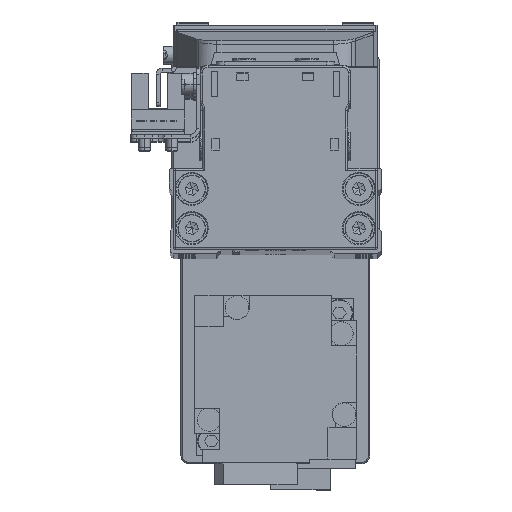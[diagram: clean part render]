
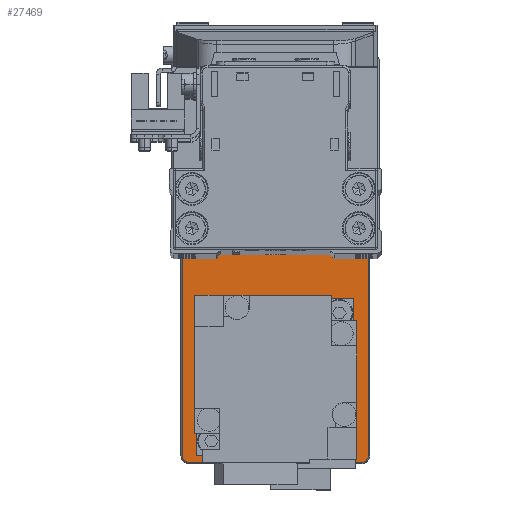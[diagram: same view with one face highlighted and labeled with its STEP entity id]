
A CAD part, top view. The second image highlights one B-rep face of the part: STEP entity #27469.
In plain terms, the highlighted planar face has unit normal (0, 0, 1).
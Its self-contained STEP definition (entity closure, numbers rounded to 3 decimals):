
#603 = EDGE_CURVE ( 'NONE', #39250, #8806, #31736, .T. ) ;
#687 = DIRECTION ( 'NONE',  ( 0., 0., 1. ) ) ;
#695 = ORIENTED_EDGE ( 'NONE', *, *, #5368, .T. ) ;
#814 = LINE ( 'NONE', #13270, #38209 ) ;
#871 = VERTEX_POINT ( 'NONE', #11887 ) ;
#1505 = AXIS2_PLACEMENT_3D ( 'NONE', #28637, #687, #13151 ) ;
#1988 = CIRCLE ( 'NONE', #24788, 12.8 ) ;
#2121 = VERTEX_POINT ( 'NONE', #19252 ) ;
#2199 = DIRECTION ( 'NONE',  ( 1., 0., 0. ) ) ;
#2229 = ORIENTED_EDGE ( 'NONE', *, *, #12778, .T. ) ;
#2339 = AXIS2_PLACEMENT_3D ( 'NONE', #35141, #7226, #19656 ) ;
#2562 = DIRECTION ( 'NONE',  ( 0., 0., 1. ) ) ;
#2985 = CIRCLE ( 'NONE', #25811, 1.7 ) ;
#3030 = ORIENTED_EDGE ( 'NONE', *, *, #22453, .T. ) ;
#3357 = EDGE_CURVE ( 'NONE', #8806, #39250, #28668, .T. ) ;
#3591 = CARTESIAN_POINT ( 'NONE',  ( -51.7, -22., 5. ) ) ;
#3753 = EDGE_LOOP ( 'NONE', ( #26445, #23646 ) ) ;
#3914 = EDGE_CURVE ( 'NONE', #35276, #16760, #1988, .T. ) ;
#4910 = CARTESIAN_POINT ( 'NONE',  ( 30., 0., 5. ) ) ;
#4936 = CARTESIAN_POINT ( 'NONE',  ( 30., 0., 5. ) ) ;
#5368 = EDGE_CURVE ( 'NONE', #871, #27805, #19675, .T. ) ;
#5821 = AXIS2_PLACEMENT_3D ( 'NONE', #8019, #20449, #32892 ) ;
#6376 = ORIENTED_EDGE ( 'NONE', *, *, #9621, .T. ) ;
#7088 = CARTESIAN_POINT ( 'NONE',  ( -28., 0., 5. ) ) ;
#7160 = CARTESIAN_POINT ( 'NONE',  ( 42.8, 0., 5. ) ) ;
#7161 = CARTESIAN_POINT ( 'NONE',  ( -50., -23.7, 5. ) ) ;
#7226 = DIRECTION ( 'NONE',  ( 0., 0., -1. ) ) ;
#8019 = CARTESIAN_POINT ( 'NONE',  ( 0., 0., 5. ) ) ;
#8806 = VERTEX_POINT ( 'NONE', #24864 ) ;
#9551 = CARTESIAN_POINT ( 'NONE',  ( -50., 23.7, 5. ) ) ;
#9607 = CARTESIAN_POINT ( 'NONE',  ( 17.2, 0., 5. ) ) ;
#9621 = EDGE_CURVE ( 'NONE', #29462, #16698, #2985, .T. ) ;
#10024 = DIRECTION ( 'NONE',  ( 1., 0., 0. ) ) ;
#10282 = VECTOR ( 'NONE', #2199, 1000. ) ;
#10787 = LINE ( 'NONE', #23213, #37926 ) ;
#11069 = FACE_BOUND ( 'NONE', #3753, .T. ) ;
#11098 = AXIS2_PLACEMENT_3D ( 'NONE', #7088, #19519, #31974 ) ;
#11649 = CIRCLE ( 'NONE', #34430, 1.7 ) ;
#11687 = ORIENTED_EDGE ( 'NONE', *, *, #18726, .T. ) ;
#11887 = CARTESIAN_POINT ( 'NONE',  ( -51.7, -22., 5. ) ) ;
#12491 = CARTESIAN_POINT ( 'NONE',  ( -51.7, 22., 5. ) ) ;
#12778 = EDGE_CURVE ( 'NONE', #27805, #2121, #17721, .T. ) ;
#13151 = DIRECTION ( 'NONE',  ( 1., 0., 0. ) ) ;
#13270 = CARTESIAN_POINT ( 'NONE',  ( 51.7, 22., 5. ) ) ;
#15027 = DIRECTION ( 'NONE',  ( 1., 0., 0. ) ) ;
#15352 = CARTESIAN_POINT ( 'NONE',  ( -50., -22., 5. ) ) ;
#15564 = VECTOR ( 'NONE', #16048, 1000. ) ;
#16048 = DIRECTION ( 'NONE',  ( 0., -1., 0. ) ) ;
#16332 = AXIS2_PLACEMENT_3D ( 'NONE', #4910, #17335, #29774 ) ;
#16698 = VERTEX_POINT ( 'NONE', #12491 ) ;
#16760 = VERTEX_POINT ( 'NONE', #9607 ) ;
#16783 = CARTESIAN_POINT ( 'NONE',  ( -38.3, 0., 5. ) ) ;
#17335 = DIRECTION ( 'NONE',  ( 0., 0., -1. ) ) ;
#17367 = DIRECTION ( 'NONE',  ( 0., 0., -1. ) ) ;
#17721 = LINE ( 'NONE', #30156, #10282 ) ;
#17918 = EDGE_CURVE ( 'NONE', #32973, #29462, #10787, .T. ) ;
#18577 = ORIENTED_EDGE ( 'NONE', *, *, #33064, .T. ) ;
#18726 = EDGE_CURVE ( 'NONE', #2121, #18912, #19105, .T. ) ;
#18912 = VERTEX_POINT ( 'NONE', #36354 ) ;
#19105 = CIRCLE ( 'NONE', #1505, 1.7 ) ;
#19252 = CARTESIAN_POINT ( 'NONE',  ( 50., -23.7, 5. ) ) ;
#19519 = DIRECTION ( 'NONE',  ( 0., 0., -1. ) ) ;
#19656 = DIRECTION ( 'NONE',  ( 1., 0., 0. ) ) ;
#19675 = CIRCLE ( 'NONE', #24879, 1.7 ) ;
#20449 = DIRECTION ( 'NONE',  ( 0., 0., 1. ) ) ;
#22453 = EDGE_CURVE ( 'NONE', #18912, #23979, #814, .T. ) ;
#22669 = ORIENTED_EDGE ( 'NONE', *, *, #26362, .T. ) ;
#23213 = CARTESIAN_POINT ( 'NONE',  ( -50., 23.7, 5. ) ) ;
#23501 = FACE_OUTER_BOUND ( 'NONE', #36948, .T. ) ;
#23646 = ORIENTED_EDGE ( 'NONE', *, *, #603, .T. ) ;
#23979 = VERTEX_POINT ( 'NONE', #39540 ) ;
#24788 = AXIS2_PLACEMENT_3D ( 'NONE', #4936, #17367, #29806 ) ;
#24864 = CARTESIAN_POINT ( 'NONE',  ( -17.7, 0., 5. ) ) ;
#24879 = AXIS2_PLACEMENT_3D ( 'NONE', #15352, #27798, #40235 ) ;
#25521 = CARTESIAN_POINT ( 'NONE',  ( -50., 22., 5. ) ) ;
#25699 = DIRECTION ( 'NONE',  ( 0., 1., 0. ) ) ;
#25811 = AXIS2_PLACEMENT_3D ( 'NONE', #25521, #37960, #10024 ) ;
#26275 = CARTESIAN_POINT ( 'NONE',  ( 50., 23.7, 5. ) ) ;
#26362 = EDGE_CURVE ( 'NONE', #16698, #871, #31563, .T. ) ;
#26445 = ORIENTED_EDGE ( 'NONE', *, *, #3357, .T. ) ;
#27469 = ADVANCED_FACE ( 'NONE', ( #38991, #11069, #23501 ), #35945, .T. ) ;
#27798 = DIRECTION ( 'NONE',  ( 0., 0., 1. ) ) ;
#27805 = VERTEX_POINT ( 'NONE', #7161 ) ;
#28637 = CARTESIAN_POINT ( 'NONE',  ( 50., -22., 5. ) ) ;
#28668 = CIRCLE ( 'NONE', #11098, 10.3 ) ;
#28709 = EDGE_LOOP ( 'NONE', ( #35015, #28873 ) ) ;
#28873 = ORIENTED_EDGE ( 'NONE', *, *, #36664, .T. ) ;
#29170 = ORIENTED_EDGE ( 'NONE', *, *, #17918, .T. ) ;
#29462 = VERTEX_POINT ( 'NONE', #9551 ) ;
#29774 = DIRECTION ( 'NONE',  ( 1., 0., 0. ) ) ;
#29806 = DIRECTION ( 'NONE',  ( 1., 0., 0. ) ) ;
#30156 = CARTESIAN_POINT ( 'NONE',  ( 50., -23.7, 5. ) ) ;
#30513 = CARTESIAN_POINT ( 'NONE',  ( 50., 22., 5. ) ) ;
#31563 = LINE ( 'NONE', #3591, #15564 ) ;
#31736 = CIRCLE ( 'NONE', #2339, 10.3 ) ;
#31974 = DIRECTION ( 'NONE',  ( 1., 0., 0. ) ) ;
#32892 = DIRECTION ( 'NONE',  ( 1., 0., 0. ) ) ;
#32973 = VERTEX_POINT ( 'NONE', #26275 ) ;
#33064 = EDGE_CURVE ( 'NONE', #23979, #32973, #11649, .T. ) ;
#33911 = CIRCLE ( 'NONE', #16332, 12.8 ) ;
#34430 = AXIS2_PLACEMENT_3D ( 'NONE', #30513, #2562, #15027 ) ;
#35015 = ORIENTED_EDGE ( 'NONE', *, *, #3914, .T. ) ;
#35141 = CARTESIAN_POINT ( 'NONE',  ( -28., 0., 5. ) ) ;
#35276 = VERTEX_POINT ( 'NONE', #7160 ) ;
#35656 = DIRECTION ( 'NONE',  ( -1., 0., 0. ) ) ;
#35945 = PLANE ( 'NONE',  #5821 ) ;
#36354 = CARTESIAN_POINT ( 'NONE',  ( 51.7, -22., 5. ) ) ;
#36664 = EDGE_CURVE ( 'NONE', #16760, #35276, #33911, .T. ) ;
#36948 = EDGE_LOOP ( 'NONE', ( #2229, #11687, #3030, #18577, #29170, #6376, #22669, #695 ) ) ;
#37926 = VECTOR ( 'NONE', #35656, 1000. ) ;
#37960 = DIRECTION ( 'NONE',  ( 0., 0., 1. ) ) ;
#38209 = VECTOR ( 'NONE', #25699, 1000. ) ;
#38991 = FACE_BOUND ( 'NONE', #28709, .T. ) ;
#39250 = VERTEX_POINT ( 'NONE', #16783 ) ;
#39540 = CARTESIAN_POINT ( 'NONE',  ( 51.7, 22., 5. ) ) ;
#40235 = DIRECTION ( 'NONE',  ( 1., 0., 0. ) ) ;
